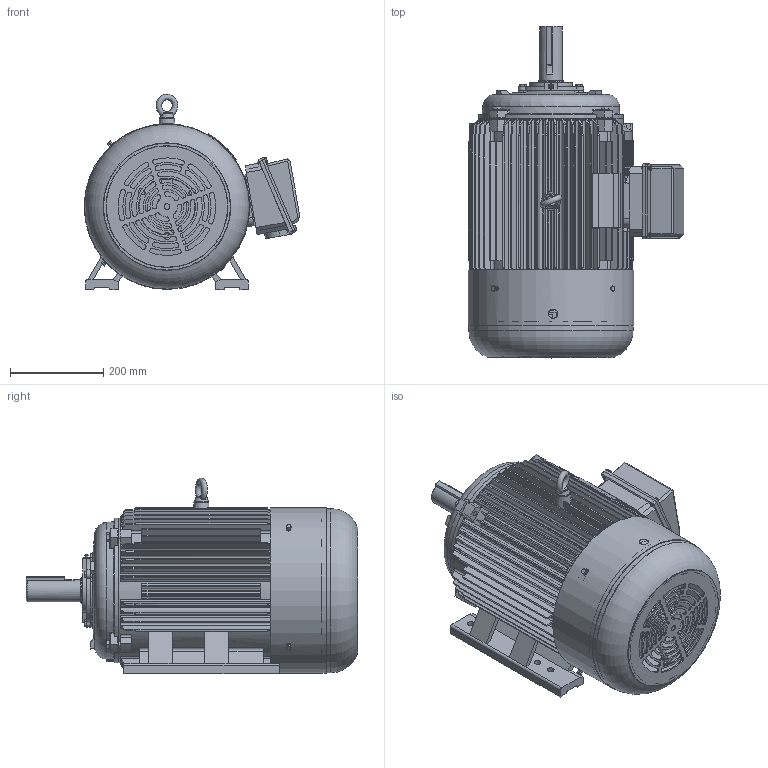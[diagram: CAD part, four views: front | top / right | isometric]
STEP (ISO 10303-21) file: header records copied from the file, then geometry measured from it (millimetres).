
FILE_DESCRIPTION(('STEP AP203'),'1');
FILE_NAME('d:/我的文档/桌面/装配12.stp','2015-03-08T02:10:15',(' '),(' '),'Spatial InterOp 3D',' ',' ');
FILE_SCHEMA(('CONFIG_CONTROL_DESIGN'));
Length unit declared in the file: metre
Products named in the file (41): __12; 零件1; 零件6; __2; __5; 零件7; 零件17; 零件8; __6; 螺栓 ： 带槽六角头 - M6.0 x 16.0; 螺栓 ： 带槽六角头 - M5.0 x 16.0; 螺栓 ： 六角头 - M8.0 x 60.0; 螺栓 ： 六角头 - M10.0 x 45.0; 垫圈 ： 平垫圈 - M10.0 x 2.0; __7; __11; 螺栓 ： 六角头 - M6.0 x 16.0
Assembly tree (40 placements, depth 3):
  __12
    零件1
    零件6
    __2
      零件6
    零件6
    零件6
    零件6
    __5
      零件7
      零件17
    零件6
    零件8
    __6
      零件6
    螺栓 ： 带槽六角头 - M6.0 x 16.0
    螺栓 ： 带槽六角头 - M6.0 x 16.0
    螺栓 ： 带槽六角头 - M5.0 x 16.0
    螺栓 ： 带槽六角头 - M6.0 x 16.0
    螺栓 ： 六角头 - M8.0 x 60.0
    螺栓 ： 六角头 - M8.0 x 60.0
    螺栓 ： 六角头 - M8.0 x 60.0
    螺栓 ： 六角头 - M10.0 x 45.0
    垫圈 ： 平垫圈 - M10.0 x 2.0
    螺栓 ： 六角头 - M10.0 x 45.0
    垫圈 ： 平垫圈 - M10.0 x 2.0
    螺栓 ： 六角头 - M10.0 x 45.0
    垫圈 ： 平垫圈 - M10.0 x 2.0
    螺栓 ： 六角头 - M10.0 x 45.0
    垫圈 ： 平垫圈 - M10.0 x 2.0
    __7
      零件6
    __11
      零件1
    零件6
    零件1
    螺栓 ： 六角头 - M6.0 x 16.0
    螺栓 ： 六角头 - M6.0 x 16.0
    螺栓 ： 六角头 - M6.0 x 16.0
    螺栓 ： 六角头 - M6.0 x 16.0
    零件1
Bounding box: 462.3 x 711.24 x 418.71 mm (x, y, z)
Volume: 41095322.2 mm3; surface area: 2787701.5 mm2
Topology: 37 solids, 37 shells, 1891 faces, 5001 edges, 3298 vertices
Faces by surface type: plane 795, cylinder 777, cone 265, torus 32, bspline 22
Full cylindrical faces by diameter (mm): 3 x1, 4 x1, 5 x1, 6 x20, 7.5 x4, 8 x24, 10 x32, 11 x4, 12 x8, 12.5 x1, 14 x6, 17 x1, 20 x6, 30 x2, 43 x1, 45 x2, 47.6 x1, 52 x1, 55 x7, 68 x1, 70 x4, 88 x1, 90 x2, 92 x1, 100 x2, 105 x1, 110 x2, 120 x3, 260 x1, 272 x1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
Entity records: 71753 total; most frequent: CARTESIAN_POINT 24093, ORIENTED_EDGE 9456, DIRECTION 9248, EDGE_CURVE 4728, AXIS2_PLACEMENT_3D 3549, VERTEX_POINT 3215, EDGE_LOOP 2391, LINE 2150
